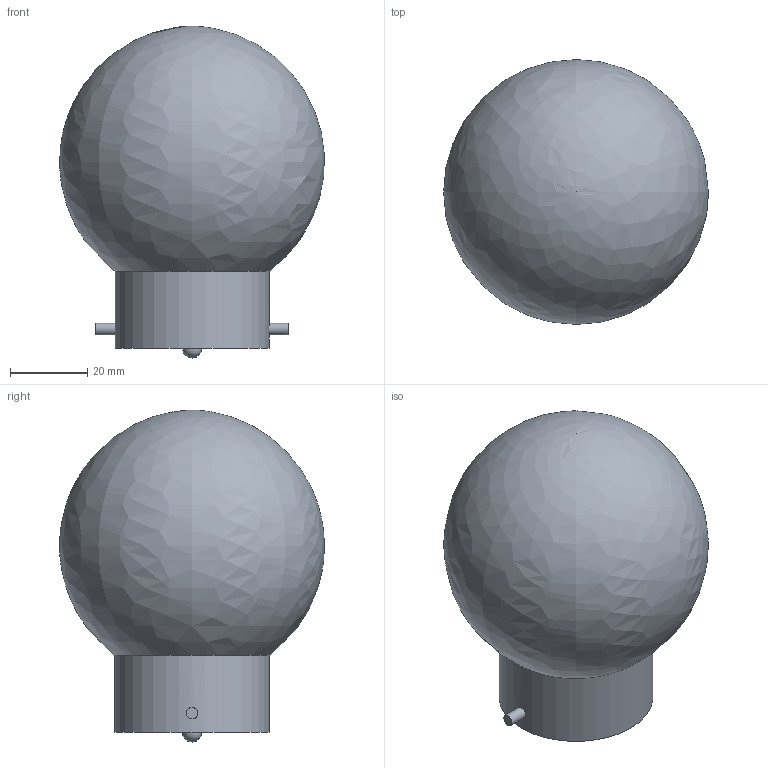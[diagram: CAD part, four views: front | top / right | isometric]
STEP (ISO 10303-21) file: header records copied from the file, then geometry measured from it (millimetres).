
FILE_DESCRIPTION(/* description */ (''),/* implementation_level */ '2;1');
FILE_NAME(/* name */ 'BULB.step',/* time_stamp */ '2024-06-26T11:07:41+05:30',/* author */ (''),/* organization */ (''),/* preprocessor_version */ 'ST-DEVELOPER v20',/* originating_system */ 'Autodesk Translation Framework v13.14.0.145',/* authorisation */ '');
FILE_SCHEMA (('AUTOMOTIVE_DESIGN { 1 0 10303 214 3 1 1 }'));
Length unit declared in the file: millimetre
Products named in the file (2): (Unsaved); Component1
Assembly tree (1 placements, depth 2):
  (Unsaved)
    Component1
Bounding box: 68.68 x 68.74 x 86.17 mm (x, y, z)
Volume: 193708.5 mm3; surface area: 17498.4 mm2
Topology: 1 solids, 1 shells, 8 faces, 17 edges, 11 vertices
Faces by surface type: cylinder 3, plane 3, sphere 1, bspline 1
Full cylindrical faces by diameter (mm): 3 x2, 40 x1
Entity records: 371 total; most frequent: CARTESIAN_POINT 149, DIRECTION 38, ORIENTED_EDGE 30, AXIS2_PLACEMENT_3D 17, EDGE_CURVE 15, VERTEX_POINT 11, EDGE_LOOP 10, FACE_OUTER_BOUND 8
